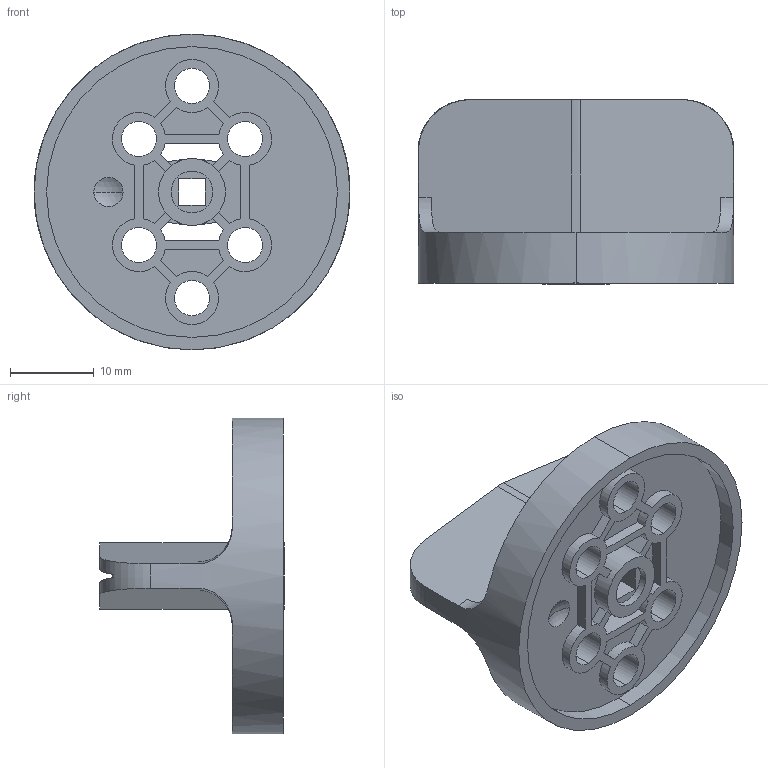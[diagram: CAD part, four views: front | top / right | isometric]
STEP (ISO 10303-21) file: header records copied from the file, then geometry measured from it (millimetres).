
FILE_DESCRIPTION (( 'STEP AP214' ), '1' );
FILE_NAME ('228-2500-473.STEP', '2021-02-18T20:05:10', ( '' ), ( '' ), 'SwSTEP 2.0', 'SolidWorks 2019', '' );
FILE_SCHEMA (( 'AUTOMOTIVE_DESIGN' ));
Length unit declared in the file: millimetre
Products named in the file (1): 228-2500-473
Bounding box: 37.8 x 22.1 x 37.8 mm (x, y, z)
Volume: 5303.6 mm3; surface area: 6933.2 mm2
Topology: 1 solids, 1 shells, 192 faces, 556 edges, 371 vertices
Faces by surface type: plane 108, cylinder 78, sphere 4, torus 2
Entity records: 6681 total; most frequent: CARTESIAN_POINT 1384, DIRECTION 1117, ORIENTED_EDGE 1112, EDGE_CURVE 556, AXIS2_PLACEMENT_3D 384, VERTEX_POINT 371, LINE 349, VECTOR 349
